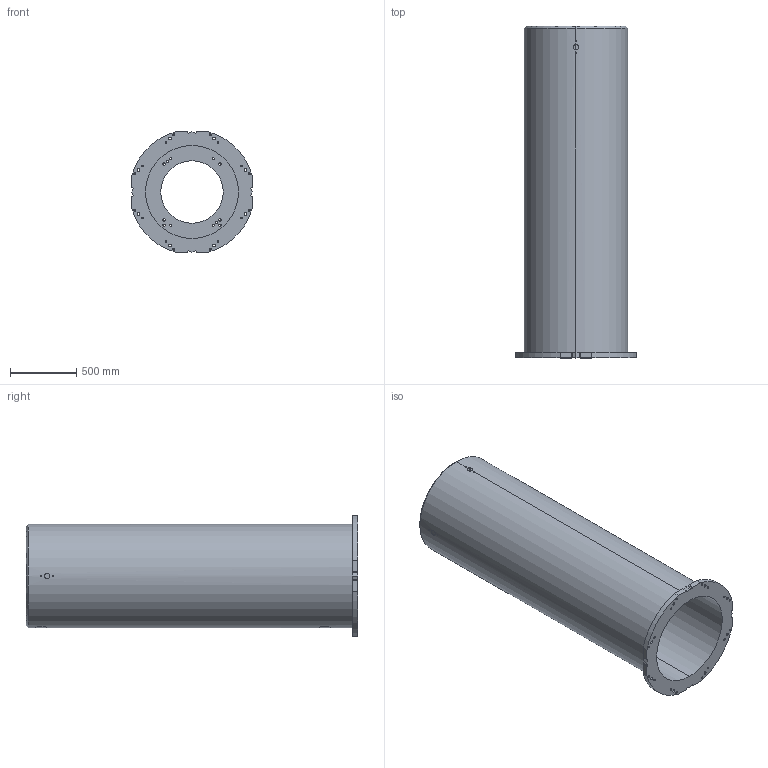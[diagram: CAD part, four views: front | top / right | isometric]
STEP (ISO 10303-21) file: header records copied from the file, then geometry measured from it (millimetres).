
FILE_DESCRIPTION (( 'STEP AP214' ), '1' );
FILE_NAME ('P-2500.STEP', '2025-12-10T13:50:08', ( '' ), ( '' ), 'SwSTEP 2.0', 'SolidWorks 2022', '' );
FILE_SCHEMA (( 'AUTOMOTIVE_DESIGN' ));
Length unit declared in the file: millimetre
Products named in the file (1): P-2500
Bounding box: 910 x 2500 x 910 mm (x, y, z)
Volume: 247803956.3 mm3; surface area: 12673257 mm2
Topology: 1 solids, 1 shells, 203 faces, 549 edges, 360 vertices
Faces by surface type: cylinder 149, plane 28, bspline 24, cone 2
Entity records: 11931 total; most frequent: CARTESIAN_POINT 5880, ORIENTED_EDGE 1098, DIRECTION 969, EDGE_CURVE 549, AXIS2_PLACEMENT_3D 378, VERTEX_POINT 360, EDGE_LOOP 289, LINE 213
